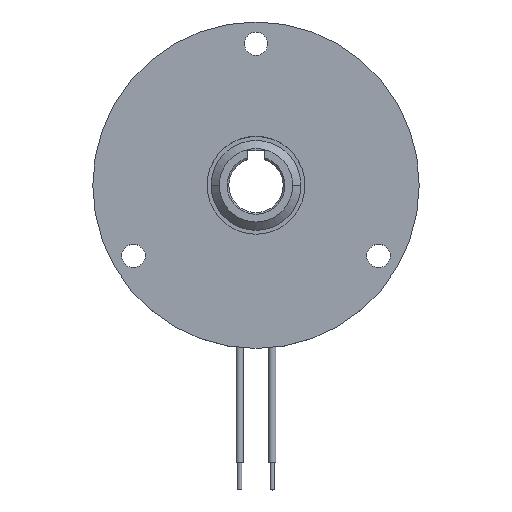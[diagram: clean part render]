
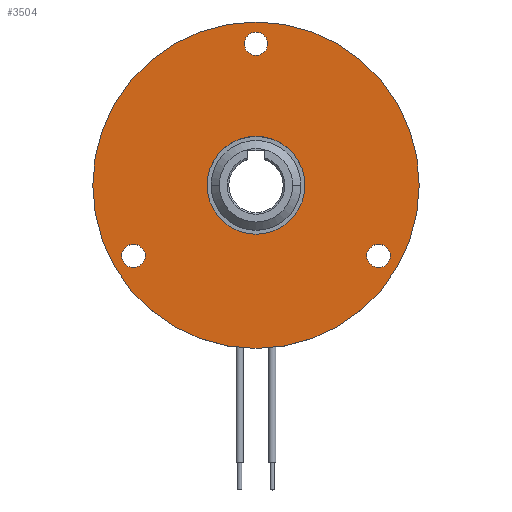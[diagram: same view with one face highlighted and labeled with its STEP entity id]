
A CAD part, top view. The second image highlights one B-rep face of the part: STEP entity #3504.
In plain terms, the highlighted planar face has unit normal (0, 0, 1).
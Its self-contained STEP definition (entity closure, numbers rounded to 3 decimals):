
#42 = CARTESIAN_POINT ( 'NONE',  ( 24.667, -13., 0. ) ) ;
#206 = EDGE_LOOP ( 'NONE', ( #6770, #2418 ) ) ;
#262 = CIRCLE ( 'NONE', #5783, 2.15 ) ;
#304 = EDGE_CURVE ( 'NONE', #5814, #5853, #1421, .T. ) ;
#306 = FACE_BOUND ( 'NONE', #1786, .T. ) ;
#343 = AXIS2_PLACEMENT_3D ( 'NONE', #5930, #2697, #6915 ) ;
#442 = ORIENTED_EDGE ( 'NONE', *, *, #2802, .T. ) ;
#603 = EDGE_CURVE ( 'NONE', #2607, #2303, #6824, .T. ) ;
#619 = CIRCLE ( 'NONE', #3094, 2.15 ) ;
#848 = CARTESIAN_POINT ( 'NONE',  ( -30., 0., 0. ) ) ;
#933 = DIRECTION ( 'NONE',  ( 0., 0., -1. ) ) ;
#946 = CARTESIAN_POINT ( 'NONE',  ( 9., 0., 0. ) ) ;
#994 = EDGE_LOOP ( 'NONE', ( #4109, #442 ) ) ;
#1035 = CIRCLE ( 'NONE', #4182, 2.15 ) ;
#1184 = DIRECTION ( 'NONE',  ( 0., 0., -1. ) ) ;
#1220 = CARTESIAN_POINT ( 'NONE',  ( 0., 0., 0. ) ) ;
#1395 = CARTESIAN_POINT ( 'NONE',  ( 22.517, -13., 0. ) ) ;
#1421 = CIRCLE ( 'NONE', #6727, 30. ) ;
#1458 = CIRCLE ( 'NONE', #4149, 2.15 ) ;
#1727 = EDGE_CURVE ( 'NONE', #3177, #3602, #6706, .T. ) ;
#1786 = EDGE_LOOP ( 'NONE', ( #5844, #6067 ) ) ;
#1791 = CARTESIAN_POINT ( 'NONE',  ( 2.15, 26., 0. ) ) ;
#1906 = DIRECTION ( 'NONE',  ( -1., 0., 0. ) ) ;
#2095 = VERTEX_POINT ( 'NONE', #3500 ) ;
#2303 = VERTEX_POINT ( 'NONE', #2973 ) ;
#2336 = DIRECTION ( 'NONE',  ( 0., 0., -1. ) ) ;
#2378 = CARTESIAN_POINT ( 'NONE',  ( 20.367, -13., 0. ) ) ;
#2418 = ORIENTED_EDGE ( 'NONE', *, *, #6272, .T. ) ;
#2498 = CARTESIAN_POINT ( 'NONE',  ( 0., 30., 0. ) ) ;
#2514 = AXIS2_PLACEMENT_3D ( 'NONE', #2498, #6719, #1906 ) ;
#2525 = AXIS2_PLACEMENT_3D ( 'NONE', #3554, #6335, #4117 ) ;
#2591 = DIRECTION ( 'NONE',  ( -1., 0., 0. ) ) ;
#2607 = VERTEX_POINT ( 'NONE', #5038 ) ;
#2621 = CIRCLE ( 'NONE', #3090, 9. ) ;
#2666 = ORIENTED_EDGE ( 'NONE', *, *, #6010, .F. ) ;
#2697 = DIRECTION ( 'NONE',  ( 0., 0., -1. ) ) ;
#2724 = CARTESIAN_POINT ( 'NONE',  ( 0., 0., 0. ) ) ;
#2762 = ORIENTED_EDGE ( 'NONE', *, *, #304, .F. ) ;
#2800 = DIRECTION ( 'NONE',  ( 0., 0., -1. ) ) ;
#2802 = EDGE_CURVE ( 'NONE', #4389, #5238, #2621, .T. ) ;
#2952 = DIRECTION ( 'NONE',  ( -1., 0., 0. ) ) ;
#2973 = CARTESIAN_POINT ( 'NONE',  ( -20.367, -13., 0. ) ) ;
#3042 = FACE_BOUND ( 'NONE', #4676, .T. ) ;
#3090 = AXIS2_PLACEMENT_3D ( 'NONE', #5070, #3437, #2952 ) ;
#3093 = DIRECTION ( 'NONE',  ( -1., 0., 0. ) ) ;
#3094 = AXIS2_PLACEMENT_3D ( 'NONE', #3987, #2336, #6629 ) ;
#3177 = VERTEX_POINT ( 'NONE', #2378 ) ;
#3249 = EDGE_LOOP ( 'NONE', ( #2666, #2762 ) ) ;
#3437 = DIRECTION ( 'NONE',  ( 0., 0., -1. ) ) ;
#3500 = CARTESIAN_POINT ( 'NONE',  ( -2.15, 26., 0. ) ) ;
#3504 = ADVANCED_FACE ( 'NONE', ( #3042, #6227, #306, #4038, #5693 ), #6860, .F. ) ;
#3525 = ORIENTED_EDGE ( 'NONE', *, *, #4473, .T. ) ;
#3554 = CARTESIAN_POINT ( 'NONE',  ( -22.517, -13., 0. ) ) ;
#3602 = VERTEX_POINT ( 'NONE', #42 ) ;
#3959 = DIRECTION ( 'NONE',  ( 0., 0., -1. ) ) ;
#3987 = CARTESIAN_POINT ( 'NONE',  ( 0., 26., 0. ) ) ;
#4037 = EDGE_CURVE ( 'NONE', #5238, #4389, #6014, .T. ) ;
#4038 = FACE_OUTER_BOUND ( 'NONE', #3249, .T. ) ;
#4073 = AXIS2_PLACEMENT_3D ( 'NONE', #1220, #1184, #6071 ) ;
#4109 = ORIENTED_EDGE ( 'NONE', *, *, #4037, .T. ) ;
#4117 = DIRECTION ( 'NONE',  ( -1., 0., 0. ) ) ;
#4149 = AXIS2_PLACEMENT_3D ( 'NONE', #6765, #3959, #6177 ) ;
#4182 = AXIS2_PLACEMENT_3D ( 'NONE', #4840, #2800, #4349 ) ;
#4349 = DIRECTION ( 'NONE',  ( -1., 0., 0. ) ) ;
#4389 = VERTEX_POINT ( 'NONE', #946 ) ;
#4428 = CARTESIAN_POINT ( 'NONE',  ( 30., 0., 0. ) ) ;
#4473 = EDGE_CURVE ( 'NONE', #3602, #3177, #262, .T. ) ;
#4676 = EDGE_LOOP ( 'NONE', ( #5934, #3525 ) ) ;
#4785 = EDGE_CURVE ( 'NONE', #6118, #2095, #1035, .T. ) ;
#4840 = CARTESIAN_POINT ( 'NONE',  ( 0., 26., 0. ) ) ;
#4949 = DIRECTION ( 'NONE',  ( -1., 0., 0. ) ) ;
#5038 = CARTESIAN_POINT ( 'NONE',  ( -24.667, -13., 0. ) ) ;
#5070 = CARTESIAN_POINT ( 'NONE',  ( 0., 0., 0. ) ) ;
#5164 = EDGE_CURVE ( 'NONE', #2095, #6118, #619, .T. ) ;
#5238 = VERTEX_POINT ( 'NONE', #6201 ) ;
#5389 = CARTESIAN_POINT ( 'NONE',  ( 22.517, -13., 0. ) ) ;
#5693 = FACE_BOUND ( 'NONE', #994, .T. ) ;
#5783 = AXIS2_PLACEMENT_3D ( 'NONE', #5389, #6329, #2591 ) ;
#5814 = VERTEX_POINT ( 'NONE', #4428 ) ;
#5844 = ORIENTED_EDGE ( 'NONE', *, *, #5164, .T. ) ;
#5853 = VERTEX_POINT ( 'NONE', #848 ) ;
#5865 = CIRCLE ( 'NONE', #343, 30. ) ;
#5927 = AXIS2_PLACEMENT_3D ( 'NONE', #1395, #933, #3093 ) ;
#5930 = CARTESIAN_POINT ( 'NONE',  ( 0., 0., 0. ) ) ;
#5934 = ORIENTED_EDGE ( 'NONE', *, *, #1727, .T. ) ;
#6010 = EDGE_CURVE ( 'NONE', #5853, #5814, #5865, .T. ) ;
#6014 = CIRCLE ( 'NONE', #4073, 9. ) ;
#6067 = ORIENTED_EDGE ( 'NONE', *, *, #4785, .T. ) ;
#6071 = DIRECTION ( 'NONE',  ( -1., 0., 0. ) ) ;
#6118 = VERTEX_POINT ( 'NONE', #1791 ) ;
#6177 = DIRECTION ( 'NONE',  ( -1., 0., 0. ) ) ;
#6201 = CARTESIAN_POINT ( 'NONE',  ( -9., 0., 0. ) ) ;
#6227 = FACE_BOUND ( 'NONE', #206, .T. ) ;
#6272 = EDGE_CURVE ( 'NONE', #2303, #2607, #1458, .T. ) ;
#6329 = DIRECTION ( 'NONE',  ( 0., 0., -1. ) ) ;
#6335 = DIRECTION ( 'NONE',  ( 0., 0., -1. ) ) ;
#6555 = DIRECTION ( 'NONE',  ( 0., 0., -1. ) ) ;
#6629 = DIRECTION ( 'NONE',  ( -1., 0., 0. ) ) ;
#6706 = CIRCLE ( 'NONE', #5927, 2.15 ) ;
#6719 = DIRECTION ( 'NONE',  ( 0., 0., -1. ) ) ;
#6727 = AXIS2_PLACEMENT_3D ( 'NONE', #2724, #6555, #4949 ) ;
#6765 = CARTESIAN_POINT ( 'NONE',  ( -22.517, -13., 0. ) ) ;
#6770 = ORIENTED_EDGE ( 'NONE', *, *, #603, .T. ) ;
#6824 = CIRCLE ( 'NONE', #2525, 2.15 ) ;
#6860 = PLANE ( 'NONE',  #2514 ) ;
#6915 = DIRECTION ( 'NONE',  ( -1., 0., 0. ) ) ;
